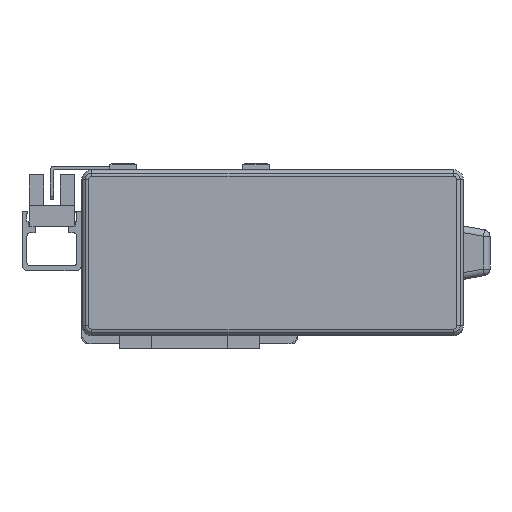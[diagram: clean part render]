
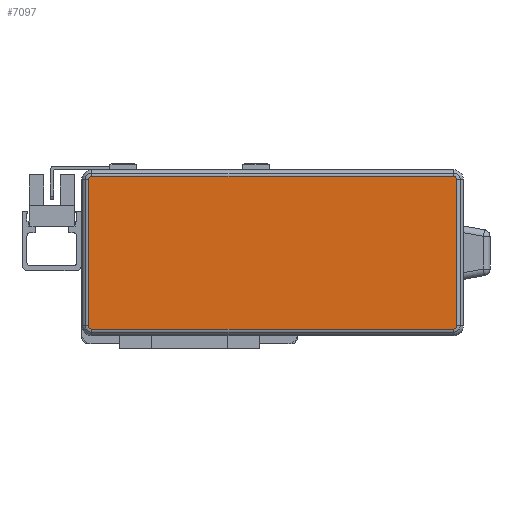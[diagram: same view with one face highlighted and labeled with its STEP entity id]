
A CAD part, left-side view. The second image highlights one B-rep face of the part: STEP entity #7097.
In plain terms, the highlighted planar face has unit normal (-1, 0, 0) as drawn and (0, 0, 1) by its records, which use the part's own axes.
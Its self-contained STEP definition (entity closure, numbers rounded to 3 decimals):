
#263 = DIRECTION ( 'NONE',  ( 0., 0., 1. ) ) ;
#657 = DIRECTION ( 'NONE',  ( -1., 0., 0. ) ) ;
#964 = ORIENTED_EDGE ( 'NONE', *, *, #21806, .T. ) ;
#1558 = CARTESIAN_POINT ( 'NONE',  ( -54.5, 23., 40. ) ) ;
#1771 = VERTEX_POINT ( 'NONE', #22938 ) ;
#2260 = CARTESIAN_POINT ( 'NONE',  ( 0., 23., 40. ) ) ;
#2580 = DIRECTION ( 'NONE',  ( 0., 0., 1. ) ) ;
#2621 = AXIS2_PLACEMENT_3D ( 'NONE', #7406, #22705, #9630 ) ;
#2813 = CARTESIAN_POINT ( 'NONE',  ( 55.5, 0., 40. ) ) ;
#2869 = EDGE_CURVE ( 'NONE', #24241, #3193, #12842, .T. ) ;
#3193 = VERTEX_POINT ( 'NONE', #1558 ) ;
#3302 = CARTESIAN_POINT ( 'NONE',  ( -54.5, -23., 40. ) ) ;
#3889 = ORIENTED_EDGE ( 'NONE', *, *, #6132, .T. ) ;
#4169 = CARTESIAN_POINT ( 'NONE',  ( 54.5, -23., 40. ) ) ;
#5017 = DIRECTION ( 'NONE',  ( 0., 1., 0. ) ) ;
#5073 = CARTESIAN_POINT ( 'NONE',  ( 55.5, -22., 40. ) ) ;
#6132 = EDGE_CURVE ( 'NONE', #1771, #24241, #6730, .T. ) ;
#6730 = CIRCLE ( 'NONE', #9278, 1. ) ;
#7097 = ADVANCED_FACE ( 'NONE', ( #9069 ), #14752, .F. ) ;
#7406 = CARTESIAN_POINT ( 'NONE',  ( -54.5, -22., 40. ) ) ;
#7651 = ORIENTED_EDGE ( 'NONE', *, *, #17784, .T. ) ;
#7870 = VECTOR ( 'NONE', #5017, 1000. ) ;
#8054 = CARTESIAN_POINT ( 'NONE',  ( 0., 0., 40. ) ) ;
#8239 = DIRECTION ( 'NONE',  ( -1., 0., 0. ) ) ;
#8462 = DIRECTION ( 'NONE',  ( 1., 0., 0. ) ) ;
#9069 = FACE_OUTER_BOUND ( 'NONE', #17896, .T. ) ;
#9228 = DIRECTION ( 'NONE',  ( 0., -1., 0. ) ) ;
#9278 = AXIS2_PLACEMENT_3D ( 'NONE', #13390, #263, #15586 ) ;
#9630 = DIRECTION ( 'NONE',  ( -1., 0., 0. ) ) ;
#10113 = VERTEX_POINT ( 'NONE', #24076 ) ;
#10677 = VERTEX_POINT ( 'NONE', #4169 ) ;
#10890 = EDGE_CURVE ( 'NONE', #23185, #1771, #13707, .T. ) ;
#11332 = CIRCLE ( 'NONE', #21588, 1. ) ;
#11995 = EDGE_CURVE ( 'NONE', #26268, #19659, #23850, .T. ) ;
#12842 = LINE ( 'NONE', #2260, #17954 ) ;
#13390 = CARTESIAN_POINT ( 'NONE',  ( 54.5, 22., 40. ) ) ;
#13707 = LINE ( 'NONE', #2813, #7870 ) ;
#13777 = DIRECTION ( 'NONE',  ( 0., 0., 1. ) ) ;
#14055 = CIRCLE ( 'NONE', #25118, 1. ) ;
#14752 = PLANE ( 'NONE',  #24677 ) ;
#14814 = LINE ( 'NONE', #23748, #19263 ) ;
#15367 = DIRECTION ( 'NONE',  ( -1., 0., 0. ) ) ;
#15586 = DIRECTION ( 'NONE',  ( -1., 0., 0. ) ) ;
#15685 = CARTESIAN_POINT ( 'NONE',  ( 54.5, -22., 40. ) ) ;
#15848 = CARTESIAN_POINT ( 'NONE',  ( -55.5, 0., 40. ) ) ;
#16909 = ORIENTED_EDGE ( 'NONE', *, *, #2869, .T. ) ;
#17058 = EDGE_CURVE ( 'NONE', #10677, #23185, #11332, .T. ) ;
#17784 = EDGE_CURVE ( 'NONE', #10113, #26268, #27667, .T. ) ;
#17882 = DIRECTION ( 'NONE',  ( -1., 0., 0. ) ) ;
#17896 = EDGE_LOOP ( 'NONE', ( #964, #25611, #21680, #3889, #16909, #24564, #7651, #25981 ) ) ;
#17954 = VECTOR ( 'NONE', #15367, 1000. ) ;
#19263 = VECTOR ( 'NONE', #8462, 1000. ) ;
#19659 = VERTEX_POINT ( 'NONE', #3302 ) ;
#19733 = CARTESIAN_POINT ( 'NONE',  ( -55.5, -22., 40. ) ) ;
#21357 = DIRECTION ( 'NONE',  ( 0., 0., -1. ) ) ;
#21588 = AXIS2_PLACEMENT_3D ( 'NONE', #15685, #2580, #17882 ) ;
#21680 = ORIENTED_EDGE ( 'NONE', *, *, #10890, .T. ) ;
#21806 = EDGE_CURVE ( 'NONE', #19659, #10677, #14814, .T. ) ;
#22705 = DIRECTION ( 'NONE',  ( 0., 0., 1. ) ) ;
#22938 = CARTESIAN_POINT ( 'NONE',  ( 55.5, 22., 40. ) ) ;
#23185 = VERTEX_POINT ( 'NONE', #5073 ) ;
#23748 = CARTESIAN_POINT ( 'NONE',  ( 0., -23., 40. ) ) ;
#23850 = CIRCLE ( 'NONE', #2621, 1. ) ;
#24076 = CARTESIAN_POINT ( 'NONE',  ( -55.5, 22., 40. ) ) ;
#24241 = VERTEX_POINT ( 'NONE', #28313 ) ;
#24564 = ORIENTED_EDGE ( 'NONE', *, *, #25049, .T. ) ;
#24677 = AXIS2_PLACEMENT_3D ( 'NONE', #8054, #21357, #8239 ) ;
#25049 = EDGE_CURVE ( 'NONE', #3193, #10113, #14055, .T. ) ;
#25118 = AXIS2_PLACEMENT_3D ( 'NONE', #26845, #13777, #657 ) ;
#25611 = ORIENTED_EDGE ( 'NONE', *, *, #17058, .T. ) ;
#25981 = ORIENTED_EDGE ( 'NONE', *, *, #11995, .T. ) ;
#26268 = VERTEX_POINT ( 'NONE', #19733 ) ;
#26845 = CARTESIAN_POINT ( 'NONE',  ( -54.5, 22., 40. ) ) ;
#27667 = LINE ( 'NONE', #15848, #28354 ) ;
#28313 = CARTESIAN_POINT ( 'NONE',  ( 54.5, 23., 40. ) ) ;
#28354 = VECTOR ( 'NONE', #9228, 1000. ) ;
